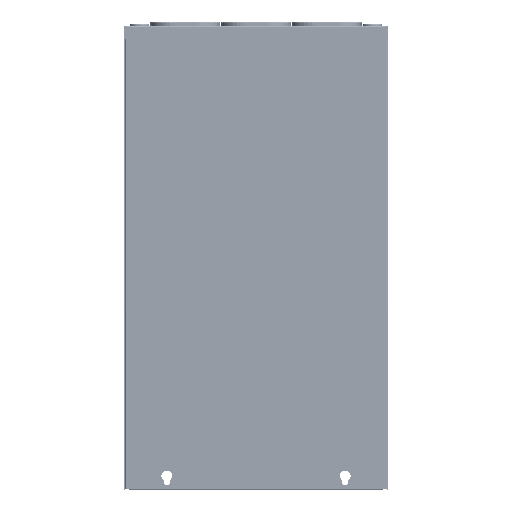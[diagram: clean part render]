
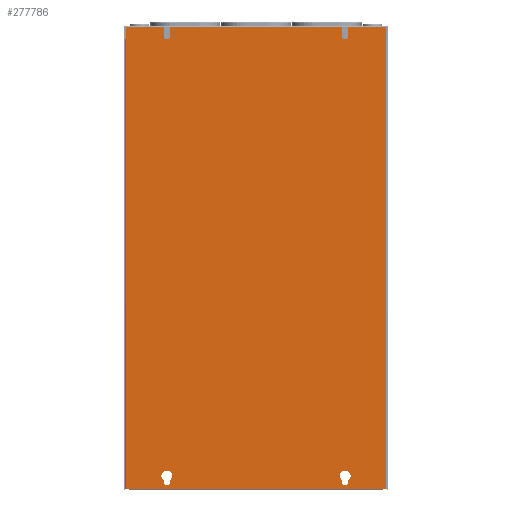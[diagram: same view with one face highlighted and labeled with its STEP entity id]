
A CAD part, front view. The second image highlights one B-rep face of the part: STEP entity #277786.
In plain terms, the highlighted planar face has unit normal (0, -1, 0).
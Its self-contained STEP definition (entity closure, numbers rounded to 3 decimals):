
#275265=DIRECTION('',(0.,0.,1.));
#275266=VECTOR('',#275265,631.);
#275267=CARTESIAN_POINT('',(181.5,-128.7,-356.35));
#275268=LINE('',#275267,#275266);
#275309=DIRECTION('',(0.,0.,-1.));
#275310=VECTOR('',#275309,12.5);
#275311=CARTESIAN_POINT('',(-129.5,-128.7,290.65));
#275312=LINE('',#275311,#275310);
#275316=CARTESIAN_POINT('',(-125.,-128.7,278.15));
#275317=DIRECTION('',(0.,-1.,0.));
#275318=DIRECTION('',(-1.,0.,0.));
#275319=AXIS2_PLACEMENT_3D('',#275316,#275317,#275318);
#275324=DIRECTION('',(0.,0.,-1.));
#275325=VECTOR('',#275324,12.5);
#275326=CARTESIAN_POINT('',(120.5,-128.7,290.65));
#275327=LINE('',#275326,#275325);
#275331=CARTESIAN_POINT('',(125.,-128.7,278.15));
#275332=DIRECTION('',(0.,-1.,0.));
#275333=DIRECTION('',(-1.,0.,0.));
#275334=AXIS2_PLACEMENT_3D('',#275331,#275332,#275333);
#275339=DIRECTION('',(0.,0.,-1.));
#275340=VECTOR('',#275339,16.);
#275341=CARTESIAN_POINT('',(181.5,-128.7,290.65));
#275342=LINE('',#275341,#275340);
#275346=CARTESIAN_POINT('',(-125.,-128.7,-346.85));
#275347=DIRECTION('',(0.,-1.,0.));
#275348=DIRECTION('',(-1.,0.,0.));
#275349=AXIS2_PLACEMENT_3D('',#275346,#275347,#275348);
#275354=CARTESIAN_POINT('',(-125.,-128.7,-338.05));
#275355=DIRECTION('',(0.,-1.,0.));
#275356=DIRECTION('',(0.6,0.,-0.8));
#275357=AXIS2_PLACEMENT_3D('',#275354,#275355,#275356);
#275362=CARTESIAN_POINT('',(-125.,-128.7,-338.05));
#275363=DIRECTION('',(0.,-1.,0.));
#275364=DIRECTION('',(-0.6,0.,0.8));
#275365=AXIS2_PLACEMENT_3D('',#275362,#275363,#275364);
#275370=CARTESIAN_POINT('',(125.,-128.7,-346.85));
#275371=DIRECTION('',(0.,-1.,0.));
#275372=DIRECTION('',(-1.,0.,0.));
#275373=AXIS2_PLACEMENT_3D('',#275370,#275371,#275372);
#275378=CARTESIAN_POINT('',(125.,-128.7,-338.05));
#275379=DIRECTION('',(0.,-1.,0.));
#275380=DIRECTION('',(0.6,0.,-0.8));
#275381=AXIS2_PLACEMENT_3D('',#275378,#275379,#275380);
#275386=CARTESIAN_POINT('',(125.,-128.7,-338.05));
#275387=DIRECTION('',(0.,-1.,0.));
#275388=DIRECTION('',(-0.6,0.,0.8));
#275389=AXIS2_PLACEMENT_3D('',#275386,#275387,#275388);
#275394=DIRECTION('',(0.,0.,-1.));
#275395=VECTOR('',#275394,16.);
#275396=CARTESIAN_POINT('',(-181.5,-128.7,290.65));
#275397=LINE('',#275396,#275395);
#275424=DIRECTION('',(0.,0.,-1.));
#275425=VECTOR('',#275424,631.);
#275426=CARTESIAN_POINT('',(-181.5,-128.7,274.65));
#275427=LINE('',#275426,#275425);
#275468=DIRECTION('',(1.,0.,0.));
#275469=VECTOR('',#275468,3.);
#275470=CARTESIAN_POINT('',(-181.5,-128.7,-356.35));
#275471=LINE('',#275470,#275469);
#276186=DIRECTION('',(1.,0.,0.));
#276187=VECTOR('',#276186,357.);
#276188=CARTESIAN_POINT('',(-178.5,-128.7,-356.35));
#276189=LINE('',#276188,#276187);
#276274=DIRECTION('',(1.,0.,0.));
#276275=VECTOR('',#276274,3.);
#276276=CARTESIAN_POINT('',(178.5,-128.7,-356.35));
#276277=LINE('',#276276,#276275);
#276460=DIRECTION('',(-1.,0.,0.));
#276461=VECTOR('',#276460,2.5);
#276462=CARTESIAN_POINT('',(181.5,-128.7,290.65));
#276463=LINE('',#276462,#276461);
#276504=DIRECTION('',(-1.,0.,0.));
#276505=VECTOR('',#276504,49.5);
#276506=CARTESIAN_POINT('',(179.,-128.7,290.65));
#276507=LINE('',#276506,#276505);
#276664=DIRECTION('',(0.,0.,-1.));
#276665=VECTOR('',#276664,12.5);
#276666=CARTESIAN_POINT('',(-120.5,-128.7,290.65));
#276667=LINE('',#276666,#276665);
#276845=DIRECTION('',(0.,0.,-1.));
#276846=VECTOR('',#276845,12.5);
#276847=CARTESIAN_POINT('',(129.5,-128.7,290.65));
#276848=LINE('',#276847,#276846);
#276852=DIRECTION('',(-1.,0.,0.));
#276853=VECTOR('',#276852,241.);
#276854=CARTESIAN_POINT('',(120.5,-128.7,290.65));
#276855=LINE('',#276854,#276853);
#276866=DIRECTION('',(-1.,0.,0.));
#276867=VECTOR('',#276866,49.5);
#276868=CARTESIAN_POINT('',(-129.5,-128.7,290.65));
#276869=LINE('',#276868,#276867);
#276952=DIRECTION('',(-1.,0.,0.));
#276953=VECTOR('',#276952,2.5);
#276954=CARTESIAN_POINT('',(-179.,-128.7,290.65));
#276955=LINE('',#276954,#276953);
#276973=DIRECTION('',(0.,0.,-1.));
#276974=VECTOR('',#276973,2.8);
#276975=CARTESIAN_POINT('',(129.5,-128.7,-344.05));
#276976=LINE('',#276975,#276974);
#276994=DIRECTION('',(0.,0.,1.));
#276995=VECTOR('',#276994,2.8);
#276996=CARTESIAN_POINT('',(120.5,-128.7,-346.85));
#276997=LINE('',#276996,#276995);
#277001=DIRECTION('',(0.,0.,1.));
#277002=VECTOR('',#277001,2.8);
#277003=CARTESIAN_POINT('',(-129.5,-128.7,-346.85));
#277004=LINE('',#277003,#277002);
#277022=DIRECTION('',(0.,0.,-1.));
#277023=VECTOR('',#277022,2.8);
#277024=CARTESIAN_POINT('',(-120.5,-128.7,-344.05));
#277025=LINE('',#277024,#277023);
#277166=CARTESIAN_POINT('',(181.5,-128.7,-356.35));
#277167=VERTEX_POINT('',#277166);
#277171=CARTESIAN_POINT('',(181.5,-128.7,274.65));
#277173=VERTEX_POINT('',#277171);
#277180=CARTESIAN_POINT('',(181.5,-128.7,290.65));
#277181=VERTEX_POINT('',#277180);
#277184=CARTESIAN_POINT('',(-181.5,-128.7,290.65));
#277185=CARTESIAN_POINT('',(-181.5,-128.7,274.65));
#277186=VERTEX_POINT('',#277184);
#277187=VERTEX_POINT('',#277185);
#277188=CARTESIAN_POINT('',(-179.,-128.7,290.65));
#277189=VERTEX_POINT('',#277188);
#277190=CARTESIAN_POINT('',(-129.5,-128.7,290.65));
#277191=VERTEX_POINT('',#277190);
#277192=CARTESIAN_POINT('',(-129.5,-128.7,278.15));
#277193=VERTEX_POINT('',#277192);
#277194=CARTESIAN_POINT('',(-120.5,-128.7,278.15));
#277195=VERTEX_POINT('',#277194);
#277196=CARTESIAN_POINT('',(-120.5,-128.7,290.65));
#277197=VERTEX_POINT('',#277196);
#277198=CARTESIAN_POINT('',(120.5,-128.7,290.65));
#277199=VERTEX_POINT('',#277198);
#277200=CARTESIAN_POINT('',(120.5,-128.7,278.15));
#277201=VERTEX_POINT('',#277200);
#277202=CARTESIAN_POINT('',(129.5,-128.7,278.15));
#277203=VERTEX_POINT('',#277202);
#277204=CARTESIAN_POINT('',(129.5,-128.7,290.65));
#277205=VERTEX_POINT('',#277204);
#277206=CARTESIAN_POINT('',(179.,-128.7,290.65));
#277207=VERTEX_POINT('',#277206);
#277208=CARTESIAN_POINT('',(178.5,-128.7,-356.35));
#277209=VERTEX_POINT('',#277208);
#277210=CARTESIAN_POINT('',(-178.5,-128.7,-356.35));
#277211=VERTEX_POINT('',#277210);
#277212=CARTESIAN_POINT('',(-181.5,-128.7,-356.35));
#277213=VERTEX_POINT('',#277212);
#277214=CARTESIAN_POINT('',(-129.5,-128.7,-346.85));
#277215=CARTESIAN_POINT('',(-129.5,-128.7,-344.05));
#277216=VERTEX_POINT('',#277214);
#277217=VERTEX_POINT('',#277215);
#277218=CARTESIAN_POINT('',(-120.5,-128.7,-346.85));
#277219=VERTEX_POINT('',#277218);
#277220=CARTESIAN_POINT('',(-120.5,-128.7,-344.05));
#277221=VERTEX_POINT('',#277220);
#277222=CARTESIAN_POINT('',(-129.5,-128.7,-332.05));
#277223=VERTEX_POINT('',#277222);
#277224=CARTESIAN_POINT('',(120.5,-128.7,-346.85));
#277225=CARTESIAN_POINT('',(129.5,-128.7,-346.85));
#277226=VERTEX_POINT('',#277224);
#277227=VERTEX_POINT('',#277225);
#277228=CARTESIAN_POINT('',(129.5,-128.7,-344.05));
#277229=VERTEX_POINT('',#277228);
#277230=CARTESIAN_POINT('',(120.5,-128.7,-332.05));
#277231=VERTEX_POINT('',#277230);
#277232=CARTESIAN_POINT('',(120.5,-128.7,-344.05));
#277233=VERTEX_POINT('',#277232);
#277721=CARTESIAN_POINT('',(0.,-128.7,-32.85));
#277722=DIRECTION('',(0.,-1.,0.));
#277723=DIRECTION('',(0.,0.,-1.));
#277724=AXIS2_PLACEMENT_3D('',#277721,#277722,#277723);
#277725=PLANE('',#277724);
#277727=ORIENTED_EDGE('',*,*,#277726,.F.);
#277729=ORIENTED_EDGE('',*,*,#277728,.F.);
#277731=ORIENTED_EDGE('',*,*,#277730,.F.);
#277733=ORIENTED_EDGE('',*,*,#277732,.T.);
#277735=ORIENTED_EDGE('',*,*,#277734,.T.);
#277737=ORIENTED_EDGE('',*,*,#277736,.F.);
#277739=ORIENTED_EDGE('',*,*,#277738,.F.);
#277741=ORIENTED_EDGE('',*,*,#277740,.T.);
#277743=ORIENTED_EDGE('',*,*,#277742,.T.);
#277745=ORIENTED_EDGE('',*,*,#277744,.F.);
#277747=ORIENTED_EDGE('',*,*,#277746,.F.);
#277749=ORIENTED_EDGE('',*,*,#277748,.F.);
#277750=ORIENTED_EDGE('',*,*,#277704,.T.);
#277751=ORIENTED_EDGE('',*,*,#277665,.F.);
#277753=ORIENTED_EDGE('',*,*,#277752,.F.);
#277755=ORIENTED_EDGE('',*,*,#277754,.F.);
#277757=ORIENTED_EDGE('',*,*,#277756,.F.);
#277759=ORIENTED_EDGE('',*,*,#277758,.F.);
#277760=EDGE_LOOP('',(#277727,#277729,#277731,#277733,#277735,#277737,#277739,
#277741,#277743,#277745,#277747,#277749,#277750,#277751,#277753,#277755,#277757,
#277759));
#277761=FACE_OUTER_BOUND('',#277760,.F.);
#277763=ORIENTED_EDGE('',*,*,#277762,.F.);
#277765=ORIENTED_EDGE('',*,*,#277764,.T.);
#277767=ORIENTED_EDGE('',*,*,#277766,.F.);
#277769=ORIENTED_EDGE('',*,*,#277768,.T.);
#277771=ORIENTED_EDGE('',*,*,#277770,.T.);
#277772=EDGE_LOOP('',(#277763,#277765,#277767,#277769,#277771));
#277773=FACE_BOUND('',#277772,.F.);
#277775=ORIENTED_EDGE('',*,*,#277774,.T.);
#277777=ORIENTED_EDGE('',*,*,#277776,.F.);
#277779=ORIENTED_EDGE('',*,*,#277778,.T.);
#277781=ORIENTED_EDGE('',*,*,#277780,.T.);
#277783=ORIENTED_EDGE('',*,*,#277782,.F.);
#277784=EDGE_LOOP('',(#277775,#277777,#277779,#277781,#277783));
#277785=FACE_BOUND('',#277784,.F.);
#275320=CIRCLE('',#275319,4.5);
#275335=CIRCLE('',#275334,4.5);
#275350=CIRCLE('',#275349,4.5);
#275358=CIRCLE('',#275357,7.5);
#275366=CIRCLE('',#275365,7.5);
#275374=CIRCLE('',#275373,4.5);
#275382=CIRCLE('',#275381,7.5);
#275390=CIRCLE('',#275389,7.5);
#277665=EDGE_CURVE('',#277167,#277173,#275268,.T.);
#277704=EDGE_CURVE('',#277181,#277173,#275342,.T.);
#277726=EDGE_CURVE('',#277186,#277187,#275397,.T.);
#277728=EDGE_CURVE('',#277189,#277186,#276955,.T.);
#277730=EDGE_CURVE('',#277191,#277189,#276869,.T.);
#277732=EDGE_CURVE('',#277191,#277193,#275312,.T.);
#277734=EDGE_CURVE('',#277193,#277195,#275320,.T.);
#277736=EDGE_CURVE('',#277197,#277195,#276667,.T.);
#277738=EDGE_CURVE('',#277199,#277197,#276855,.T.);
#277740=EDGE_CURVE('',#277199,#277201,#275327,.T.);
#277742=EDGE_CURVE('',#277201,#277203,#275335,.T.);
#277744=EDGE_CURVE('',#277205,#277203,#276848,.T.);
#277746=EDGE_CURVE('',#277207,#277205,#276507,.T.);
#277748=EDGE_CURVE('',#277181,#277207,#276463,.T.);
#277752=EDGE_CURVE('',#277209,#277167,#276277,.T.);
#277754=EDGE_CURVE('',#277211,#277209,#276189,.T.);
#277756=EDGE_CURVE('',#277213,#277211,#275471,.T.);
#277758=EDGE_CURVE('',#277187,#277213,#275427,.T.);
#277762=EDGE_CURVE('',#277216,#277217,#277004,.T.);
#277764=EDGE_CURVE('',#277216,#277219,#275350,.T.);
#277766=EDGE_CURVE('',#277221,#277219,#277025,.T.);
#277768=EDGE_CURVE('',#277221,#277223,#275358,.T.);
#277770=EDGE_CURVE('',#277223,#277217,#275366,.T.);
#277774=EDGE_CURVE('',#277226,#277227,#275374,.T.);
#277776=EDGE_CURVE('',#277229,#277227,#276976,.T.);
#277778=EDGE_CURVE('',#277229,#277231,#275382,.T.);
#277780=EDGE_CURVE('',#277231,#277233,#275390,.T.);
#277782=EDGE_CURVE('',#277226,#277233,#276997,.T.);
#277786=ADVANCED_FACE('',(#277761,#277773,#277785),#277725,.T.);
